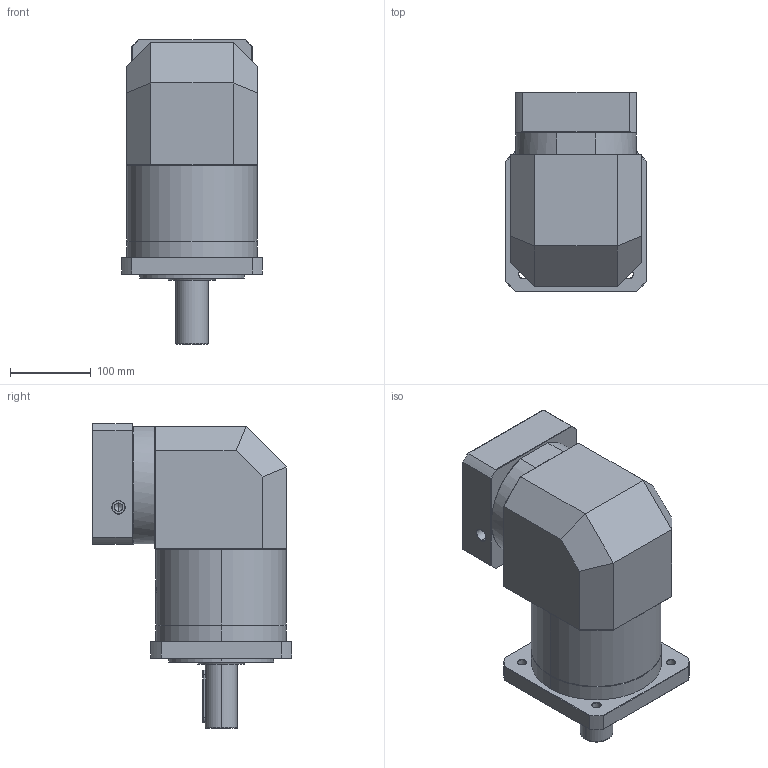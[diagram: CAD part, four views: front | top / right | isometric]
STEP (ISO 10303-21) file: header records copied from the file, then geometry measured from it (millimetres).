
FILE_DESCRIPTION (( 'STEP AP214' ), '1' );
FILE_NAME ('ZFR160A-D40-L2-P2-28-130-165-M10.step', '2023-09-03T08:57:53', ( '' ), ( '' ), 'SwSTEP 2.0', 'SolidWorks 2016', '' );
FILE_SCHEMA (( 'AUTOMOTIVE_DESIGN' ));
Length unit declared in the file: millimetre
Products named in the file (1): ZFR160A-D40-L2-P2-28-130-165-M10
Bounding box: 175 x 247.5 x 378.7 mm (x, y, z)
Volume: 7451890 mm3; surface area: 460812.9 mm2
Topology: 6 solids, 6 shells, 2205 faces, 5821 edges, 3723 vertices
Faces by surface type: plane 1048, bspline 414, cylinder 414, cone 307, torus 22
Entity records: 126521 total; most frequent: CARTESIAN_POINT 53127, ORIENTED_EDGE 11582, DIRECTION 8373, EDGE_CURVE 5791, VERTEX_POINT 3723, VECTOR 3089, LINE 3089, AXIS2_PLACEMENT_3D 2642
